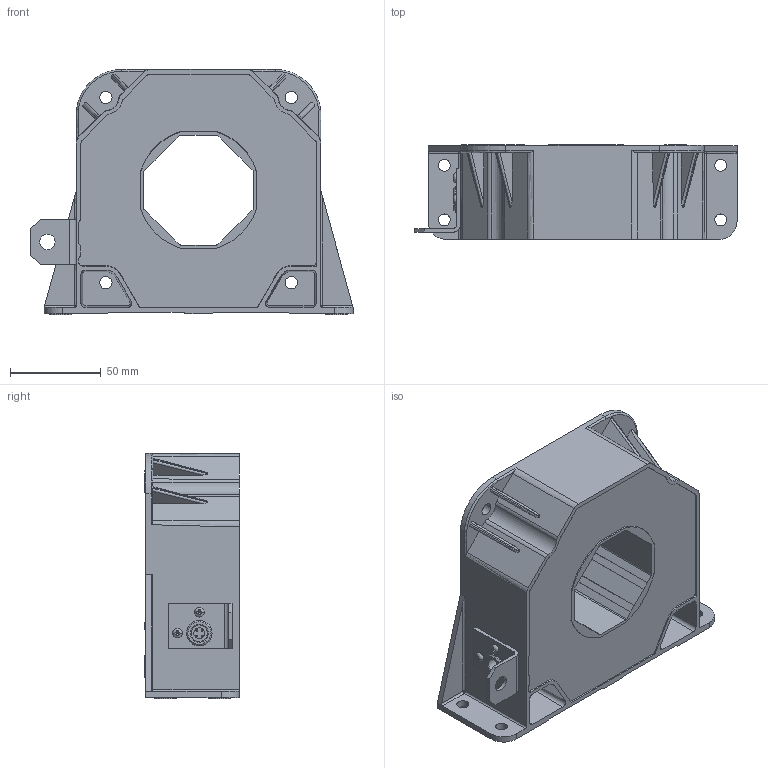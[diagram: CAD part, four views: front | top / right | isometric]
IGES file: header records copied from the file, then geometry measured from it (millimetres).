
Start section: Elysium IGES Interface
Global section: file name: \\Gva50\sd-data\Etudes\GVu\Serie_blackbox\LF 2005-S_SP1_blackbox\LF 2005-S_SP1_blackbox.igs; native system: SolidDesigner 16.00A  16-Aug-2008; preprocessor: CoCreate IGES_3D V2.2; author: Unknown; organization: Unknown; date: 20090217.135525; units: millimetre
Bounding box: 177.22 x 52 x 134.88 mm (x, y, z)
Volume: 678467.6 mm3; surface area: 114078 mm2
Topology: 6 solids, 6 shells, 1331 faces, 3655 edges, 2413 vertices
Faces by surface type: bspline 1331
